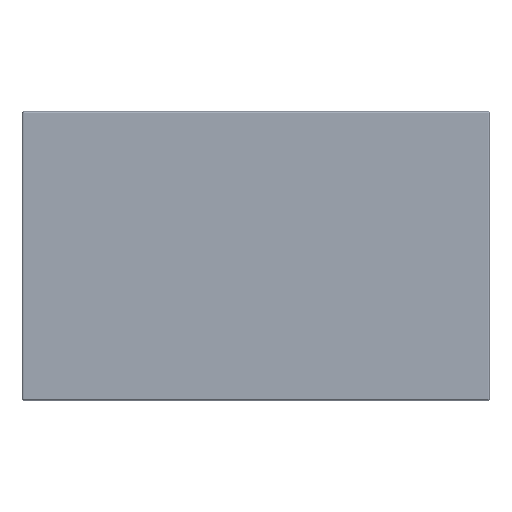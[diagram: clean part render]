
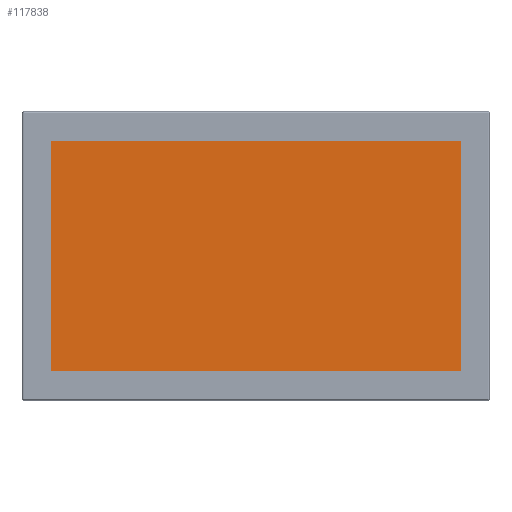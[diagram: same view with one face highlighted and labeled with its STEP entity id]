
A CAD part, front view. The second image highlights one B-rep face of the part: STEP entity #117838.
In plain terms, the highlighted planar face has unit normal (0, -1, 0) as drawn and (0, 0, 1) by its records, which use the part's own axes.
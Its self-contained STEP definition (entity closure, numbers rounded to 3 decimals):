
#21607 = LINE ( 'NONE', #372970, #282674 ) ;
#37216 = CARTESIAN_POINT ( 'NONE',  ( -172.75, -97.5, 0.8 ) ) ;
#40471 = VECTOR ( 'NONE', #273326, 1000. ) ;
#43770 = ORIENTED_EDGE ( 'NONE', *, *, #78948, .T. ) ;
#45738 = VECTOR ( 'NONE', #330710, 1000. ) ;
#47264 = CARTESIAN_POINT ( 'NONE',  ( -172.75, 97.5, 0.8 ) ) ;
#50552 = ORIENTED_EDGE ( 'NONE', *, *, #194772, .T. ) ;
#64549 = DIRECTION ( 'NONE',  ( 0., 0., 1. ) ) ;
#65779 = LINE ( 'NONE', #294358, #45738 ) ;
#78948 = EDGE_CURVE ( 'NONE', #240887, #199563, #21607, .T. ) ;
#104796 = AXIS2_PLACEMENT_3D ( 'NONE', #287931, #64549, #120335 ) ;
#110720 = CARTESIAN_POINT ( 'NONE',  ( 172.75, 97.5, 0.8 ) ) ;
#117838 = ADVANCED_FACE ( 'NONE', ( #181660 ), #228418, .T. ) ;
#120335 = DIRECTION ( 'NONE',  ( 1., 0., 0. ) ) ;
#174880 = VERTEX_POINT ( 'NONE', #243401 ) ;
#181660 = FACE_OUTER_BOUND ( 'NONE', #220124, .T. ) ;
#194772 = EDGE_CURVE ( 'NONE', #174880, #240887, #302154, .T. ) ;
#199563 = VERTEX_POINT ( 'NONE', #375651 ) ;
#200012 = ORIENTED_EDGE ( 'NONE', *, *, #315668, .T. ) ;
#218703 = VERTEX_POINT ( 'NONE', #47264 ) ;
#220124 = EDGE_LOOP ( 'NONE', ( #50552, #43770, #200012, #234395 ) ) ;
#227748 = DIRECTION ( 'NONE',  ( -1., 0., 0. ) ) ;
#228418 = PLANE ( 'NONE',  #104796 ) ;
#228890 = DIRECTION ( 'NONE',  ( 0., 1., 0. ) ) ;
#234395 = ORIENTED_EDGE ( 'NONE', *, *, #361466, .T. ) ;
#240887 = VERTEX_POINT ( 'NONE', #329870 ) ;
#243401 = CARTESIAN_POINT ( 'NONE',  ( -172.75, -97.5, 0.8 ) ) ;
#256546 = LINE ( 'NONE', #110720, #335959 ) ;
#273326 = DIRECTION ( 'NONE',  ( 1., 0., 0. ) ) ;
#282674 = VECTOR ( 'NONE', #228890, 1000. ) ;
#287931 = CARTESIAN_POINT ( 'NONE',  ( 0., 0., 0.8 ) ) ;
#294358 = CARTESIAN_POINT ( 'NONE',  ( -172.75, 97.5, 0.8 ) ) ;
#302154 = LINE ( 'NONE', #37216, #40471 ) ;
#315668 = EDGE_CURVE ( 'NONE', #199563, #218703, #256546, .T. ) ;
#329870 = CARTESIAN_POINT ( 'NONE',  ( 172.75, -97.5, 0.8 ) ) ;
#330710 = DIRECTION ( 'NONE',  ( 0., -1., 0. ) ) ;
#335959 = VECTOR ( 'NONE', #227748, 1000. ) ;
#361466 = EDGE_CURVE ( 'NONE', #218703, #174880, #65779, .T. ) ;
#372970 = CARTESIAN_POINT ( 'NONE',  ( 172.75, -97.5, 0.8 ) ) ;
#375651 = CARTESIAN_POINT ( 'NONE',  ( 172.75, 97.5, 0.8 ) ) ;
